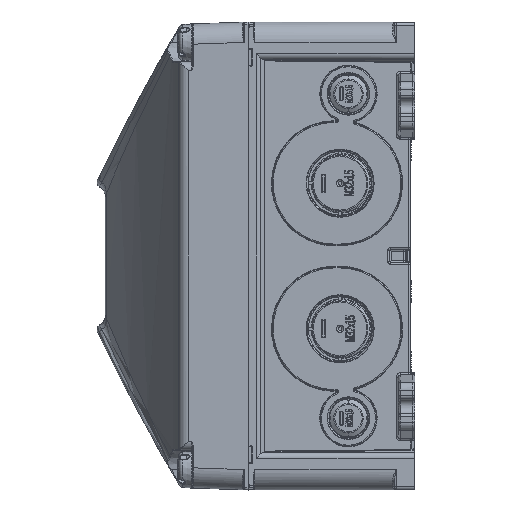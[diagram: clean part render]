
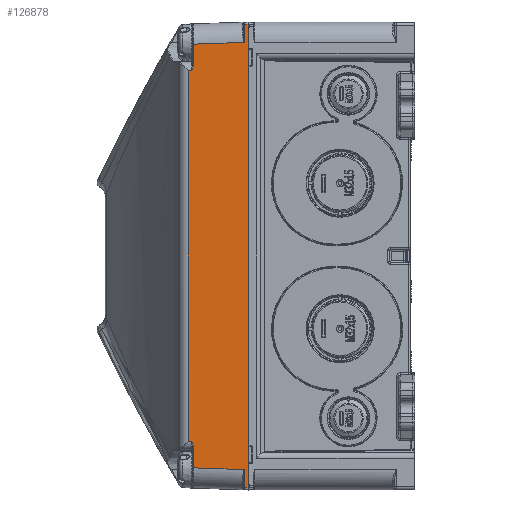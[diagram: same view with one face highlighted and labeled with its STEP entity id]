
A CAD part, left-side view. The second image highlights one B-rep face of the part: STEP entity #126878.
In plain terms, the highlighted planar face has unit normal (-0.999, 0.035, 0).
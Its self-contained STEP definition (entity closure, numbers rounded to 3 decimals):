
#754=DIRECTION('',(0.,0.,1.));
#755=VECTOR('',#754,223.123);
#756=CARTESIAN_POINT('',(-130.061,78.257,-111.561));
#757=LINE('19328',#756,#755);
#761=DIRECTION('',(-0.035,-0.999,-0.035));
#762=VECTOR('',#761,1.863);
#763=CARTESIAN_POINT('',(-129.996,80.117,-111.497));
#764=LINE('19568',#763,#762);
#768=DIRECTION('',(0.,0.,-1.));
#769=VECTOR('',#768,8.745);
#770=CARTESIAN_POINT('',(-129.996,80.117,-102.752));
#771=LINE('19407',#770,#769);
#775=DIRECTION('',(0.,0.,1.));
#776=VECTOR('',#775,9.743);
#777=CARTESIAN_POINT('',(-129.144,104.517,-101.9));
#778=LINE('19454',#777,#776);
#782=CARTESIAN_POINT('',(-129.144,104.517,-92.156));
#783=CARTESIAN_POINT('',(-129.144,104.517,-92.022));
#784=CARTESIAN_POINT('',(-129.143,104.537,-91.741));
#785=CARTESIAN_POINT('',(-129.14,104.626,-91.278));
#786=CARTESIAN_POINT('',(-129.135,104.779,-90.779));
#787=CARTESIAN_POINT('',(-129.13,104.92,-90.424));
#788=CARTESIAN_POINT('',(-129.127,105.,-90.241));
#793=DIRECTION('',(-0.035,-0.999,-0.035));
#794=VECTOR('',#793,1.529);
#795=CARTESIAN_POINT('',(-129.057,107.009,-89.183));
#796=LINE('19498',#795,#794);
#800=DIRECTION('',(0.,0.,-1.));
#801=VECTOR('',#800,178.365);
#802=CARTESIAN_POINT('',(-129.057,107.009,89.183));
#803=LINE('19488',#802,#801);
#807=DIRECTION('',(0.035,0.999,-0.035));
#808=VECTOR('',#807,1.529);
#809=CARTESIAN_POINT('',(-129.11,105.483,89.236));
#810=LINE('19499',#809,#808);
#814=CARTESIAN_POINT('',(-129.127,105.,90.241));
#815=CARTESIAN_POINT('',(-129.13,104.92,90.424));
#816=CARTESIAN_POINT('',(-129.135,104.779,90.779));
#817=CARTESIAN_POINT('',(-129.14,104.626,91.278));
#818=CARTESIAN_POINT('',(-129.143,104.537,91.741));
#819=CARTESIAN_POINT('',(-129.144,104.517,92.022));
#820=CARTESIAN_POINT('',(-129.144,104.517,92.156));
#825=DIRECTION('',(0.,0.,1.));
#826=VECTOR('',#825,9.743);
#827=CARTESIAN_POINT('',(-129.144,104.517,92.156));
#828=LINE('19457',#827,#826);
#832=DIRECTION('',(0.,0.,-1.));
#833=VECTOR('',#832,8.745);
#834=CARTESIAN_POINT('',(-129.996,80.117,111.497));
#835=LINE('19402',#834,#833);
#839=DIRECTION('',(0.035,0.999,-0.035));
#840=VECTOR('',#839,1.863);
#841=CARTESIAN_POINT('',(-130.061,78.257,111.561));
#842=LINE('19356',#841,#840);
#8947=CARTESIAN_POINT('',(-129.144,104.517,101.9));
#9026=CARTESIAN_POINT('',(-129.996,80.117,102.752));
#9031=DIRECTION('',(0.035,0.999,-0.035));
#9032=VECTOR('',#9031,24.43);
#9033=CARTESIAN_POINT('',(-129.996,80.117,102.752));
#9034=LINE('19492',#9033,#9032);
#9115=CARTESIAN_POINT('',(-129.11,105.483,89.236));
#9116=CARTESIAN_POINT('',(-129.112,105.424,89.351));
#9117=CARTESIAN_POINT('',(-129.116,105.31,89.579));
#9118=CARTESIAN_POINT('',(-129.122,105.147,89.914));
#9119=CARTESIAN_POINT('',(-129.125,105.047,90.133));
#9120=CARTESIAN_POINT('',(-129.127,105.,90.241));
#12334=CARTESIAN_POINT('',(-129.11,105.483,
89.236));
#12362=CARTESIAN_POINT('',(-129.057,107.009,
89.183));
#12410=CARTESIAN_POINT('',(-129.057,107.009,
-89.183));
#12415=CARTESIAN_POINT('',(-129.11,105.483,
-89.236));
#12846=CARTESIAN_POINT('',(-129.127,105.,
-90.241));
#12847=CARTESIAN_POINT('',(-129.125,105.047,
-90.132));
#12848=CARTESIAN_POINT('',(-129.122,105.147,
-89.914));
#12849=CARTESIAN_POINT('',(-129.116,105.31,
-89.578));
#12850=CARTESIAN_POINT('',(-129.112,105.424,
-89.351));
#12851=CARTESIAN_POINT('',(-129.11,105.483,
-89.236));
#12889=CARTESIAN_POINT('',(-129.144,104.517,
-101.9));
#12894=DIRECTION('',(-0.035,-0.999,-0.035));
#12895=VECTOR('',#12894,24.43);
#12896=CARTESIAN_POINT('',(-129.144,104.517,
-101.9));
#12897=LINE('19490',#12896,#12895);
#18048=CARTESIAN_POINT('',(-129.996,80.117,
-102.752));
#18076=CARTESIAN_POINT('',(-129.996,80.117,
-111.497));
#124366=VERTEX_POINT('',#8947);
#124383=VERTEX_POINT('',#12889);
#124442=CARTESIAN_POINT('',(-130.061,78.257,
-111.561));
#124443=CARTESIAN_POINT('',(-130.061,78.257,
111.561));
#124444=VERTEX_POINT('',#124442);
#124445=VERTEX_POINT('',#124443);
#124476=CARTESIAN_POINT('',(-129.996,80.117,
111.497));
#124477=VERTEX_POINT('',#124476);
#124493=VERTEX_POINT('',#18076);
#124495=VERTEX_POINT('',#9026);
#124513=VERTEX_POINT('',#18048);
#124531=VERTEX_POINT('',#12362);
#124533=VERTEX_POINT('',#12410);
#124542=VERTEX_POINT('',#12415);
#124545=CARTESIAN_POINT('',(-129.144,104.517,
-92.156));
#124546=VERTEX_POINT('',#124545);
#124547=VERTEX_POINT('',#788);
#124549=CARTESIAN_POINT('',(-129.144,104.517,
92.156));
#124550=VERTEX_POINT('',#124549);
#124554=VERTEX_POINT('',#12334);
#124559=VERTEX_POINT('',#814);
#126840=CARTESIAN_POINT('',(-130.068,78.05,102.756));
#126841=DIRECTION('',(-0.999,0.035,0.));
#126842=DIRECTION('',(0.035,0.999,0.));
#126843=AXIS2_PLACEMENT_3D('',#126840,#126841,#126842);
#126844=PLANE('7349',#126843);
#126845=ORIENTED_EDGE('19328',*,*,#126819,.F.);
#126847=ORIENTED_EDGE('19568',*,*,#126846,.F.);
#126849=ORIENTED_EDGE('19407',*,*,#126848,.F.);
#126851=ORIENTED_EDGE('19490',*,*,#126850,.F.);
#126853=ORIENTED_EDGE('19454',*,*,#126852,.T.);
#126855=ORIENTED_EDGE('19455',*,*,#126854,.T.);
#126857=ORIENTED_EDGE('19539',*,*,#126856,.T.);
#126859=ORIENTED_EDGE('19498',*,*,#126858,.F.);
#126861=ORIENTED_EDGE('19488',*,*,#126860,.F.);
#126863=ORIENTED_EDGE('19499',*,*,#126862,.F.);
#126865=ORIENTED_EDGE('19529',*,*,#126864,.T.);
#126867=ORIENTED_EDGE('19464',*,*,#126866,.T.);
#126869=ORIENTED_EDGE('19457',*,*,#126868,.T.);
#126871=ORIENTED_EDGE('19492',*,*,#126870,.F.);
#126873=ORIENTED_EDGE('19402',*,*,#126872,.F.);
#126875=ORIENTED_EDGE('19356',*,*,#126874,.F.);
#126876=EDGE_LOOP('7349',(#126845,#126847,#126849,#126851,#126853,#126855,
#126857,#126859,#126861,#126863,#126865,#126867,#126869,#126871,#126873,
#126875));
#126877=FACE_OUTER_BOUND('7349',#126876,.F.);
#789=B_SPLINE_CURVE_WITH_KNOTS('19455',3,(#782,#783,#784,#785,#786,#787,#788),
.UNSPECIFIED.,.F.,.F.,(4,1,1,1,4),(0.,0.25,0.5,0.75,1.),
.UNSPECIFIED.);
#821=B_SPLINE_CURVE_WITH_KNOTS('19464',3,(#814,#815,#816,#817,#818,#819,#820),
.UNSPECIFIED.,.F.,.F.,(4,1,1,1,4),(0.,0.25,0.5,0.75,1.),
.UNSPECIFIED.);
#9121=B_SPLINE_CURVE_WITH_KNOTS('19529',3,(#9115,#9116,#9117,#9118,#9119,#9120),
.UNSPECIFIED.,.F.,.F.,(4,1,1,4),(0.,0.333,0.667,1.),
.UNSPECIFIED.);
#12852=B_SPLINE_CURVE_WITH_KNOTS('19539',3,(#12846,#12847,#12848,#12849,#12850,
#12851),.UNSPECIFIED.,.F.,.F.,(4,1,1,4),(0.,0.333,
0.667,1.),.UNSPECIFIED.);
#126819=EDGE_CURVE('19328',#124444,#124445,#757,.T.);
#126846=EDGE_CURVE('19568',#124493,#124444,#764,.T.);
#126848=EDGE_CURVE('19407',#124513,#124493,#771,.T.);
#126850=EDGE_CURVE('19490',#124383,#124513,#12897,.T.);
#126852=EDGE_CURVE('19454',#124383,#124546,#778,.T.);
#126854=EDGE_CURVE('19455',#124546,#124547,#789,.T.);
#126856=EDGE_CURVE('19539',#124547,#124542,#12852,.T.);
#126858=EDGE_CURVE('19498',#124533,#124542,#796,.T.);
#126860=EDGE_CURVE('19488',#124531,#124533,#803,.T.);
#126862=EDGE_CURVE('19499',#124554,#124531,#810,.T.);
#126864=EDGE_CURVE('19529',#124554,#124559,#9121,.T.);
#126866=EDGE_CURVE('19464',#124559,#124550,#821,.T.);
#126868=EDGE_CURVE('19457',#124550,#124366,#828,.T.);
#126870=EDGE_CURVE('19492',#124495,#124366,#9034,.T.);
#126872=EDGE_CURVE('19402',#124477,#124495,#835,.T.);
#126874=EDGE_CURVE('19356',#124445,#124477,#842,.T.);
#126878=ADVANCED_FACE('7349',(#126877),#126844,.T.);
